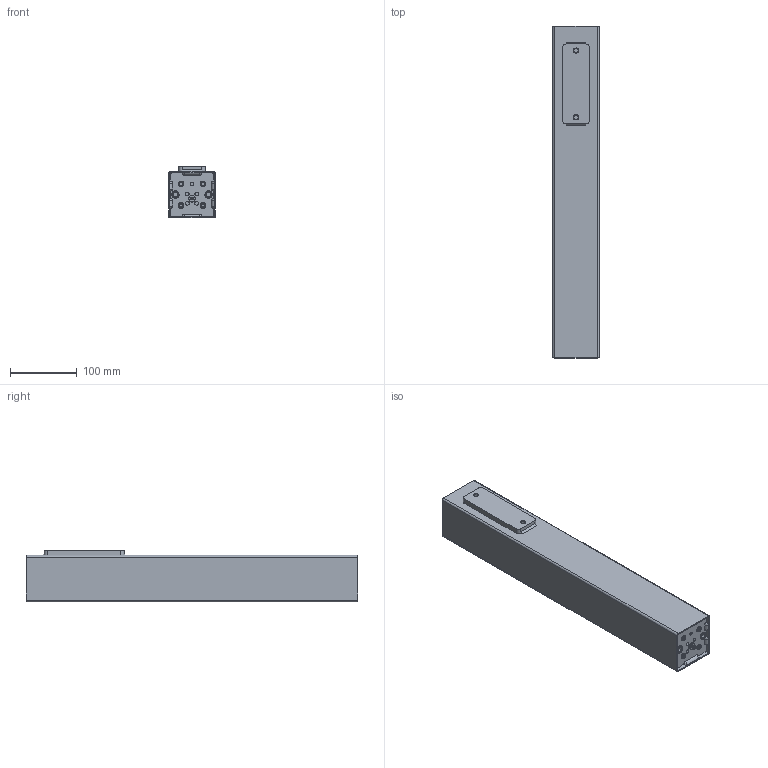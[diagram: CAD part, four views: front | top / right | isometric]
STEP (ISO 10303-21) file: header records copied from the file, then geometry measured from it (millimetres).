
FILE_DESCRIPTION((''),'2;1');
FILE_NAME('1029W7901-A-19-3_AF0','2020-01-08T10:31:33',('mbes'),(''),'CREO PARAMETRIC BY PTC INC, 2018400','CREO PARAMETRIC BY PTC INC, 2018400','');
FILE_SCHEMA(('AUTOMOTIVE_DESIGN { 1 0 10303 214 1 1 1 1 }'));
Length unit declared in the file: millimetre
Products named in the file (1): 1029W7901-A-19-3_AF0
Bounding box: 70 x 498 x 78 mm (x, y, z)
Volume: 2446552.3 mm3; surface area: 155161.2 mm2
Topology: 1 solids, 2 shells, 350 faces, 911 edges, 579 vertices
Faces by surface type: cylinder 144, plane 126, torus 42, cone 20, bspline 18
Entity records: 12824 total; most frequent: CARTESIAN_POINT 3966, DIRECTION 1894, ORIENTED_EDGE 1818, EDGE_CURVE 909, AXIS2_PLACEMENT_3D 719, VERTEX_POINT 579, VECTOR 456, LINE 456
